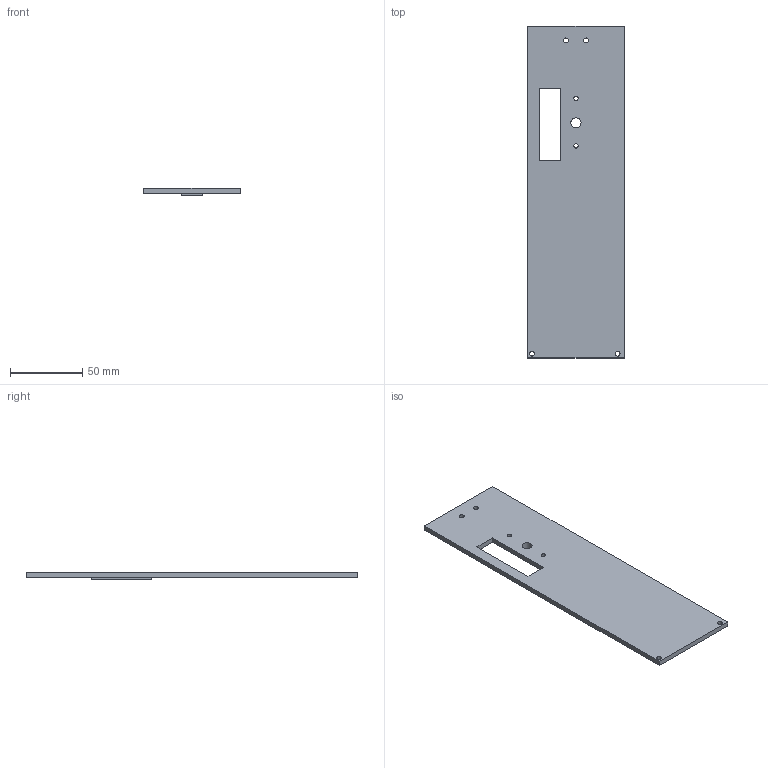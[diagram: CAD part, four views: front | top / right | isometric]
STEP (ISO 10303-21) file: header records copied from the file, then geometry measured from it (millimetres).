
FILE_DESCRIPTION(/* description */ ('STEP AP242 Edition 2','CAx-IF Rec.Pracs.---Representation and Presentation of Product Manufacturing Information (PMI)---4.0---2014-10-13','CAx-IF Rec.Pracs.---3D Tessellated Geometry---0.4---2014-09-14','2;1','CAx-IF Rec.Pracs.---User Defined Attributes---1.5---2016-08-15'),/* implementation_level */ '2;1');
FILE_NAME(/* name */ 'Arm Parts - XFloor',/* time_stamp */ '2026-04-22T00:04:14Z',/* author */ (''),/* organization */ (''),/* preprocessor_version */ 'ST-DEVELOPER v20',/* originating_system */ 'ONSHAPE BY PTC INC, 1.213',/* authorisation */ ' ');
FILE_SCHEMA (('AP242_MANAGED_MODEL_BASED_3D_ENGINEERING_MIM_LF { 1 0 10303 442 3 1 4 }'));
Length unit declared in the file: metre
Products named in the file (1): XFloor
Bounding box: 67 x 230 x 5 mm (x, y, z)
Volume: 51868.5 mm3; surface area: 32200.8 mm2
Topology: 1 solids, 1 shells, 22 faces, 57 edges, 38 vertices
Faces by surface type: plane 15, cylinder 7
Full cylindrical faces by diameter (mm): 3 x2, 3.3 x2, 3.4 x2, 7 x1
Entity records: 694 total; most frequent: CARTESIAN_POINT 111, DIRECTION 110, ORIENTED_EDGE 100, EDGE_CURVE 50, EDGE_LOOP 46, FACE_BOUND 46, VERTEX_POINT 38, AXIS2_PLACEMENT_3D 37
